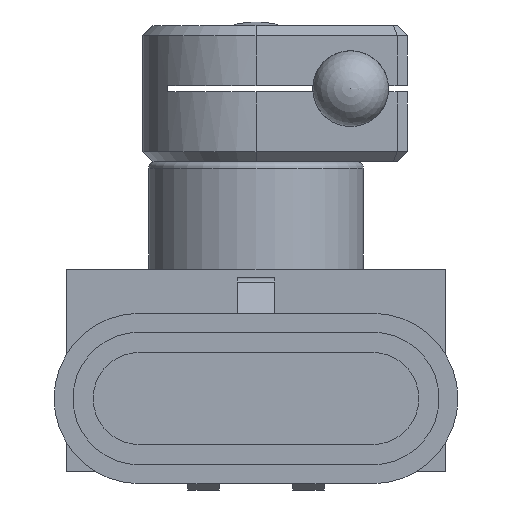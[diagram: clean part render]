
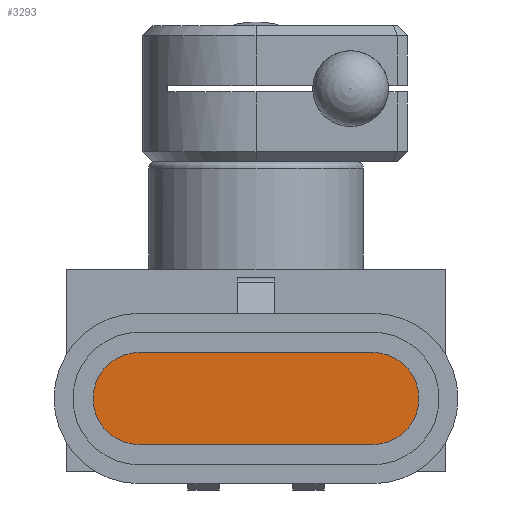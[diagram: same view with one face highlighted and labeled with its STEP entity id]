
A CAD part, front view. The second image highlights one B-rep face of the part: STEP entity #3293.
In plain terms, the highlighted planar face has unit normal (0, -1, 0) as drawn and (0, 0, -1) by its records, which use the part's own axes.
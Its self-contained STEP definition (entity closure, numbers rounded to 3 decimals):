
#140=LINE('',#5033,#478);
#144=LINE('',#5045,#482);
#478=VECTOR('',#4067,18.5);
#482=VECTOR('',#4079,18.5);
#743=PLANE('',#3540);
#918=FACE_OUTER_BOUND('',#1117,.T.);
#1117=EDGE_LOOP('',(#2445,#2446,#2447,#2448));
#1305=CIRCLE('',#3535,3.65);
#1307=CIRCLE('',#3539,3.65);
#1492=VERTEX_POINT('',#5030);
#1493=VERTEX_POINT('',#5032);
#1495=VERTEX_POINT('',#5038);
#1497=VERTEX_POINT('',#5044);
#1843=EDGE_CURVE('',#1493,#1492,#140,.T.);
#1846=EDGE_CURVE('',#1495,#1493,#1305,.T.);
#1849=EDGE_CURVE('',#1497,#1495,#144,.T.);
#1852=EDGE_CURVE('',#1492,#1497,#1307,.T.);
#2445=ORIENTED_EDGE('',*,*,#1846,.T.);
#2446=ORIENTED_EDGE('',*,*,#1843,.T.);
#2447=ORIENTED_EDGE('',*,*,#1852,.T.);
#2448=ORIENTED_EDGE('',*,*,#1849,.T.);
#3293=ADVANCED_FACE('',(#918),#743,.F.);
#3535=AXIS2_PLACEMENT_3D('',#5039,#4073,#4074);
#3539=AXIS2_PLACEMENT_3D('',#5049,#4085,#4086);
#3540=AXIS2_PLACEMENT_3D('',#5050,#4087,#4088);
#4067=DIRECTION('',(1.,0.,0.));
#4073=DIRECTION('center_axis',(0.,0.,-1.));
#4074=DIRECTION('ref_axis',(1.,0.,0.));
#4079=DIRECTION('',(-1.,0.,0.));
#4085=DIRECTION('center_axis',(0.,0.,-1.));
#4086=DIRECTION('ref_axis',(1.,0.,0.));
#4087=DIRECTION('center_axis',(0.,0.,1.));
#4088=DIRECTION('ref_axis',(1.,0.,0.));
#5030=CARTESIAN_POINT('',(9.25,-2.1,-60.5));
#5032=CARTESIAN_POINT('',(-9.25,-2.1,-60.5));
#5033=CARTESIAN_POINT('',(-9.25,-2.1,-60.5));
#5038=CARTESIAN_POINT('',(-9.25,-9.4,-60.5));
#5039=CARTESIAN_POINT('Origin',(-9.25,-5.75,-60.5));
#5044=CARTESIAN_POINT('',(9.25,-9.4,-60.5));
#5045=CARTESIAN_POINT('',(9.25,-9.4,-60.5));
#5049=CARTESIAN_POINT('Origin',(9.25,-5.75,-60.5));
#5050=CARTESIAN_POINT('Origin',(-9.25,-5.75,-60.5));
